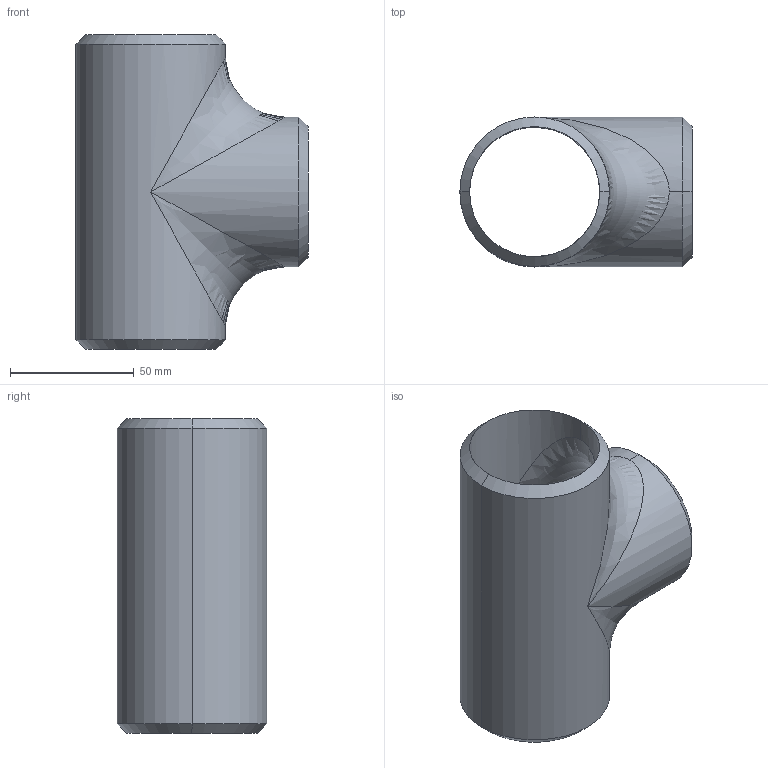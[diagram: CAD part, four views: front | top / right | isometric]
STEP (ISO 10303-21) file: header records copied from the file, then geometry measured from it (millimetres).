
FILE_DESCRIPTION (( 'STEP AP203' ), '1' );
FILE_NAME ('3D_R266_2x40S_173445150.STEP', '2024-08-23T10:58:21', ( '' ), ( '' ), 'SwSTEP 2.0', 'SolidWorks 2024', '' );
FILE_SCHEMA (( 'CONFIG_CONTROL_DESIGN' ));
Length unit declared in the file: millimetre
Products named in the file (1): 3D_R266_2x40S_173445150
Bounding box: 93.65 x 60.3 x 127 mm (x, y, z)
Volume: 101490 mm3; surface area: 54722.1 mm2
Topology: 1 solids, 1 shells, 21 faces, 58 edges, 30 vertices
Faces by surface type: cylinder 8, cone 6, bspline 4, plane 3
Entity records: 1315 total; most frequent: CARTESIAN_POINT 794, ORIENTED_EDGE 100, DIRECTION 88, EDGE_CURVE 50, AXIS2_PLACEMENT_3D 36, VERTEX_POINT 30, EDGE_LOOP 24, ADVANCED_FACE 21
